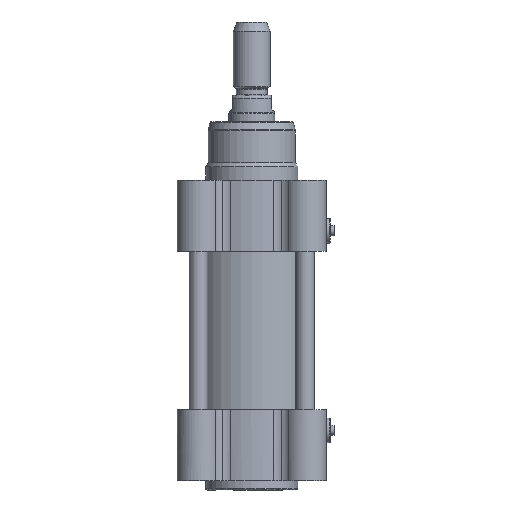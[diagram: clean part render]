
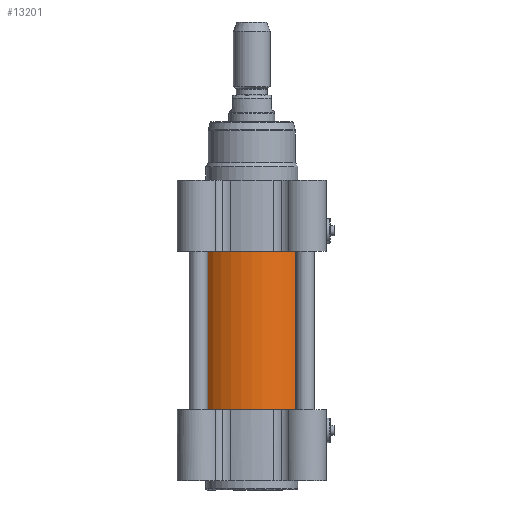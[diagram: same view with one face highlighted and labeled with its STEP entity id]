
A CAD part, front view. The second image highlights one B-rep face of the part: STEP entity #13201.
In plain terms, the highlighted cylindrical face has radius 26.5 mm (diameter 53 mm), a partial arc.
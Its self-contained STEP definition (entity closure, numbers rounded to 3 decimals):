
#81 = EDGE_CURVE ( 'NONE', #11852, #21817, #7451, .T. ) ;
#1233 = DIRECTION ( 'NONE',  ( -1., 0., 0. ) ) ;
#2045 = VERTEX_POINT ( 'NONE', #24823 ) ;
#2927 = CIRCLE ( 'NONE', #6441, 26.5 ) ;
#3584 = LINE ( 'NONE', #20269, #5402 ) ;
#3835 = AXIS2_PLACEMENT_3D ( 'NONE', #9602, #19836, #1233 ) ;
#4316 = EDGE_CURVE ( 'NONE', #2045, #11852, #2927, .T. ) ;
#4671 = VECTOR ( 'NONE', #21820, 1000. ) ;
#4742 = EDGE_CURVE ( 'NONE', #21817, #14377, #9952, .T. ) ;
#5139 = CARTESIAN_POINT ( 'NONE',  ( -26.5, 0., 0. ) ) ;
#5402 = VECTOR ( 'NONE', #19992, 1000. ) ;
#5719 = CARTESIAN_POINT ( 'NONE',  ( -26.5, 0., 0.2 ) ) ;
#6441 = AXIS2_PLACEMENT_3D ( 'NONE', #23354, #25135, #14755 ) ;
#6526 = CARTESIAN_POINT ( 'NONE',  ( 26.5, 0., 68.8 ) ) ;
#7451 = LINE ( 'NONE', #5139, #4671 ) ;
#7785 = ORIENTED_EDGE ( 'NONE', *, *, #4742, .F. ) ;
#8838 = FACE_OUTER_BOUND ( 'NONE', #15606, .T. ) ;
#9602 = CARTESIAN_POINT ( 'NONE',  ( 0., 0., 68.8 ) ) ;
#9952 = CIRCLE ( 'NONE', #3835, 26.5 ) ;
#11020 = DIRECTION ( 'NONE',  ( 0., 0., 1. ) ) ;
#11852 = VERTEX_POINT ( 'NONE', #5719 ) ;
#12492 = EDGE_CURVE ( 'NONE', #2045, #14377, #3584, .T. ) ;
#13201 = ADVANCED_FACE ( 'NONE', ( #8838 ), #25521, .T. ) ;
#14377 = VERTEX_POINT ( 'NONE', #6526 ) ;
#14527 = ORIENTED_EDGE ( 'NONE', *, *, #81, .F. ) ;
#14728 = CARTESIAN_POINT ( 'NONE',  ( 0., 0., 0. ) ) ;
#14755 = DIRECTION ( 'NONE',  ( -1., 0., 0. ) ) ;
#15606 = EDGE_LOOP ( 'NONE', ( #20013, #25156, #7785, #14527 ) ) ;
#19353 = DIRECTION ( 'NONE',  ( -1., 0., 0. ) ) ;
#19836 = DIRECTION ( 'NONE',  ( 0., 0., 1. ) ) ;
#19992 = DIRECTION ( 'NONE',  ( 0., 0., 1. ) ) ;
#20013 = ORIENTED_EDGE ( 'NONE', *, *, #4316, .F. ) ;
#20269 = CARTESIAN_POINT ( 'NONE',  ( 26.5, 0., 0. ) ) ;
#20675 = CARTESIAN_POINT ( 'NONE',  ( -26.5, 0., 68.8 ) ) ;
#21817 = VERTEX_POINT ( 'NONE', #20675 ) ;
#21820 = DIRECTION ( 'NONE',  ( 0., 0., 1. ) ) ;
#23354 = CARTESIAN_POINT ( 'NONE',  ( 0., 0., 0.2 ) ) ;
#24641 = AXIS2_PLACEMENT_3D ( 'NONE', #14728, #11020, #19353 ) ;
#24823 = CARTESIAN_POINT ( 'NONE',  ( 26.5, 0., 0.2 ) ) ;
#25135 = DIRECTION ( 'NONE',  ( 0., 0., -1. ) ) ;
#25156 = ORIENTED_EDGE ( 'NONE', *, *, #12492, .T. ) ;
#25521 = CYLINDRICAL_SURFACE ( 'NONE', #24641, 26.5 ) ;
